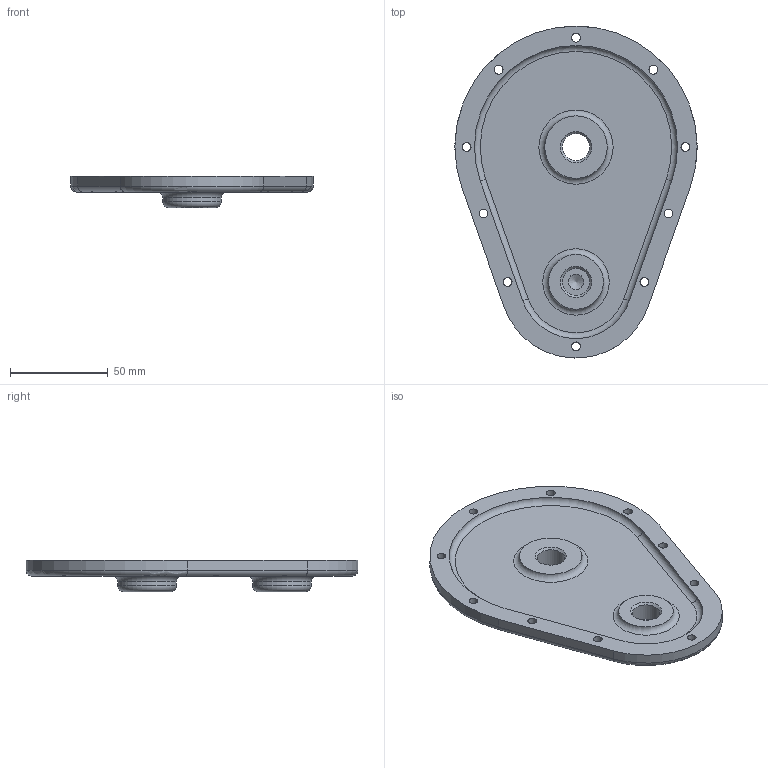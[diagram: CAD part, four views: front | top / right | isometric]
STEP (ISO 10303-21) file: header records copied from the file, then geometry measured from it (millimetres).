
FILE_DESCRIPTION(/* description */ (''),/* implementation_level */ '2;1');
FILE_NAME(/* name */ '',/* time_stamp */ '2025-01-06T15:36:46+09:00',/* author */ ('jhkim'),/* organization */ (''),/* preprocessor_version */ 'ST-DEVELOPER v20',/* originating_system */ 'Autodesk Inventor 2025',/* authorisation */ '');
FILE_SCHEMA (('AUTOMOTIVE_DESIGN { 1 0 10303 214 3 1 1 }'));
Length unit declared in the file: millimetre
Products named in the file (1): 커버
Bounding box: 124 x 169.95 x 16 mm (x, y, z)
Volume: 100200.1 mm3; surface area: 38864.6 mm2
Topology: 1 solids, 1 shells, 67 faces, 167 edges, 109 vertices
Faces by surface type: cylinder 31, plane 21, torus 11, cone 4
Full cylindrical faces by diameter (mm): 4.5 x10, 8 x10, 14 x2, 20 x1, 30 x2
Entity records: 2218 total; most frequent: CARTESIAN_POINT 454, DIRECTION 395, ORIENTED_EDGE 332, AXIS2_PLACEMENT_3D 174, EDGE_CURVE 166, VERTEX_POINT 109, CIRCLE 106, EDGE_LOOP 97
